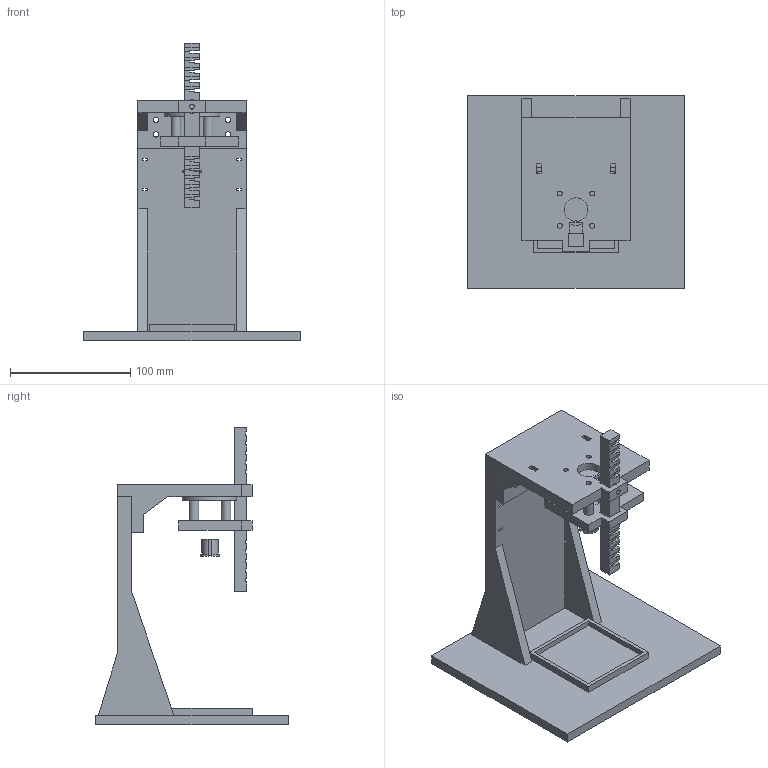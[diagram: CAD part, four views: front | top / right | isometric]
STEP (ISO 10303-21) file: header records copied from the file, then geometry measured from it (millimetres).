
FILE_DESCRIPTION(/* description */ (''),/* implementation_level */ '2;1');
FILE_NAME(/* name */ 'five_printed_parts_assembled.step',/* time_stamp */ '2026-11-14T21:40:03-08:00',/* author */ (''),/* organization */ (''),/* preprocessor_version */ 'ST-DEVELOPER v20.2',/* originating_system */ 'Autodesk Translation Framework v15.17.0.0',/* authorisation */ '');
FILE_SCHEMA (('AUTOMOTIVE_DESIGN { 1 0 10303 214 3 1 1 }'));
Length unit declared in the file: millimetre
Products named in the file (1): 2026-11-14-21-40-03-591
Bounding box: 180 x 160 x 248 mm (x, y, z)
Volume: 635477.6 mm3; surface area: 166918.3 mm2
Topology: 5 solids, 5 shells, 309 faces, 880 edges, 584 vertices
Faces by surface type: plane 276, cylinder 33
Full cylindrical faces by diameter (mm): 4.1 x10, 4.5 x8, 8 x4, 10 x1, 19.6 x2, 26 x1
Entity records: 10086 total; most frequent: CARTESIAN_POINT 1808, ORIENTED_EDGE 1760, DIRECTION 1575, EDGE_CURVE 880, LINE 801, VECTOR 801, VERTEX_POINT 584, AXIS2_PLACEMENT_3D 387
